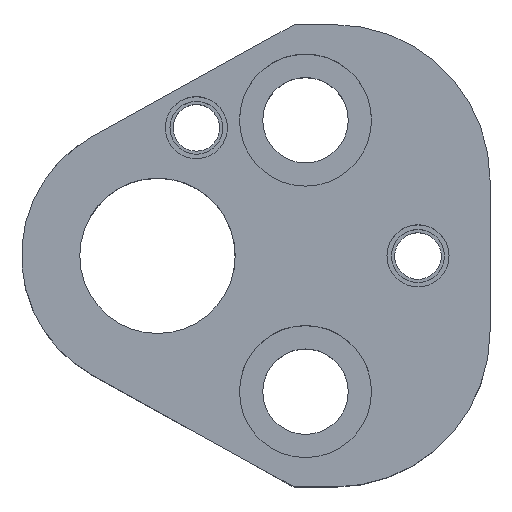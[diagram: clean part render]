
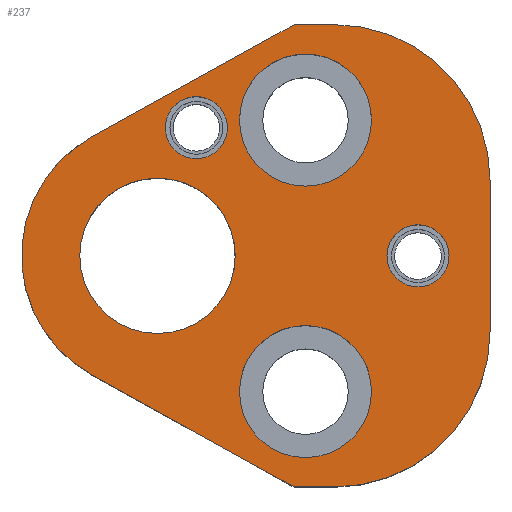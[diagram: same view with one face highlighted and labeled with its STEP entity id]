
A CAD part, top view. The second image highlights one B-rep face of the part: STEP entity #237.
In plain terms, the highlighted planar face has unit normal (0, 0, 1).
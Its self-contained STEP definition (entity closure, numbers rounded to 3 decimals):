
#113=FACE_BOUND('',#341,.T.);
#114=FACE_BOUND('',#342,.T.);
#115=FACE_BOUND('',#343,.T.);
#116=FACE_BOUND('',#344,.T.);
#117=FACE_BOUND('',#345,.T.);
#118=FACE_BOUND('',#346,.T.);
#149=CIRCLE('',#871,20.);
#151=CIRCLE('',#875,20.);
#154=CIRCLE('',#882,17.5);
#170=CIRCLE('',#907,8.5);
#172=CIRCLE('',#910,8.5);
#174=CIRCLE('',#914,8.5);
#176=CIRCLE('',#917,8.5);
#190=CIRCLE('',#943,4.);
#191=CIRCLE('',#944,4.);
#192=CIRCLE('',#945,4.);
#193=CIRCLE('',#946,4.);
#194=CIRCLE('',#947,10.);
#195=CIRCLE('',#948,10.);
#237=ADVANCED_FACE('',(#113,#114,#115,#116,#117,#118),#261,.T.);
#261=PLANE('',#949);
#341=EDGE_LOOP('',(#511,#512,#513,#514,#515,#516,#517,#518));
#342=EDGE_LOOP('',(#519,#520));
#343=EDGE_LOOP('',(#521,#522));
#344=EDGE_LOOP('',(#523,#524));
#345=EDGE_LOOP('',(#525,#526));
#346=EDGE_LOOP('',(#527,#528));
#511=ORIENTED_EDGE('',*,*,#675,.T.);
#512=ORIENTED_EDGE('',*,*,#654,.T.);
#513=ORIENTED_EDGE('',*,*,#658,.T.);
#514=ORIENTED_EDGE('',*,*,#661,.T.);
#515=ORIENTED_EDGE('',*,*,#664,.T.);
#516=ORIENTED_EDGE('',*,*,#667,.T.);
#517=ORIENTED_EDGE('',*,*,#670,.T.);
#518=ORIENTED_EDGE('',*,*,#679,.T.);
#519=ORIENTED_EDGE('',*,*,#740,.F.);
#520=ORIENTED_EDGE('',*,*,#741,.F.);
#521=ORIENTED_EDGE('',*,*,#742,.F.);
#522=ORIENTED_EDGE('',*,*,#743,.F.);
#523=ORIENTED_EDGE('',*,*,#718,.F.);
#524=ORIENTED_EDGE('',*,*,#714,.F.);
#525=ORIENTED_EDGE('',*,*,#712,.F.);
#526=ORIENTED_EDGE('',*,*,#708,.F.);
#527=ORIENTED_EDGE('',*,*,#744,.T.);
#528=ORIENTED_EDGE('',*,*,#745,.T.);
#581=VERTEX_POINT('',#1228);
#582=VERTEX_POINT('',#1230);
#585=VERTEX_POINT('',#1237);
#587=VERTEX_POINT('',#1243);
#589=VERTEX_POINT('',#1249);
#591=VERTEX_POINT('',#1255);
#593=VERTEX_POINT('',#1261);
#597=VERTEX_POINT('',#1272);
#619=VERTEX_POINT('',#1340);
#620=VERTEX_POINT('',#1341);
#623=VERTEX_POINT('',#1353);
#624=VERTEX_POINT('',#1354);
#639=VERTEX_POINT('',#1408);
#640=VERTEX_POINT('',#1409);
#641=VERTEX_POINT('',#1412);
#642=VERTEX_POINT('',#1413);
#643=VERTEX_POINT('',#1416);
#644=VERTEX_POINT('',#1417);
#654=EDGE_CURVE('',#582,#581,#764,.T.);
#658=EDGE_CURVE('',#581,#585,#149,.T.);
#661=EDGE_CURVE('',#585,#587,#769,.T.);
#664=EDGE_CURVE('',#587,#589,#151,.T.);
#667=EDGE_CURVE('',#589,#591,#773,.T.);
#670=EDGE_CURVE('',#591,#593,#776,.T.);
#675=EDGE_CURVE('',#597,#582,#781,.T.);
#679=EDGE_CURVE('',#593,#597,#154,.T.);
#708=EDGE_CURVE('',#619,#620,#170,.T.);
#712=EDGE_CURVE('',#620,#619,#172,.T.);
#714=EDGE_CURVE('',#623,#624,#174,.T.);
#718=EDGE_CURVE('',#624,#623,#176,.T.);
#740=EDGE_CURVE('',#639,#640,#190,.T.);
#741=EDGE_CURVE('',#640,#639,#191,.T.);
#742=EDGE_CURVE('',#641,#642,#192,.T.);
#743=EDGE_CURVE('',#642,#641,#193,.T.);
#744=EDGE_CURVE('',#643,#644,#194,.T.);
#745=EDGE_CURVE('',#644,#643,#195,.T.);
#764=LINE('',#1229,#817);
#769=LINE('',#1244,#822);
#773=LINE('',#1256,#826);
#776=LINE('',#1262,#829);
#781=LINE('',#1271,#834);
#817=VECTOR('',#973,1.);
#822=VECTOR('',#986,1.);
#826=VECTOR('',#998,1.);
#829=VECTOR('',#1003,1.);
#834=VECTOR('',#1010,1.);
#871=AXIS2_PLACEMENT_3D('',#1238,#979,#980);
#875=AXIS2_PLACEMENT_3D('',#1250,#991,#992);
#882=AXIS2_PLACEMENT_3D('',#1279,#1017,#1018);
#907=AXIS2_PLACEMENT_3D('',#1339,#1079,#1080);
#910=AXIS2_PLACEMENT_3D('',#1348,#1087,#1088);
#914=AXIS2_PLACEMENT_3D('',#1352,#1095,#1096);
#917=AXIS2_PLACEMENT_3D('',#1361,#1103,#1104);
#943=AXIS2_PLACEMENT_3D('',#1407,#1163,#1164);
#944=AXIS2_PLACEMENT_3D('',#1410,#1165,#1166);
#945=AXIS2_PLACEMENT_3D('',#1411,#1167,#1168);
#946=AXIS2_PLACEMENT_3D('',#1414,#1169,#1170);
#947=AXIS2_PLACEMENT_3D('',#1415,#1171,#1172);
#948=AXIS2_PLACEMENT_3D('',#1418,#1173,#1174);
#949=AXIS2_PLACEMENT_3D('',#1419,#1175,#1176);
#973=DIRECTION('',(1.,0.,0.));
#979=DIRECTION('',(0.,0.,1.));
#980=DIRECTION('',(-0.707,0.707,0.));
#986=DIRECTION('',(0.,1.,0.));
#991=DIRECTION('',(0.,0.,1.));
#992=DIRECTION('',(-0.707,-0.707,0.));
#998=DIRECTION('',(-1.,0.,0.));
#1003=DIRECTION('',(-0.875,-0.485,0.));
#1010=DIRECTION('',(0.875,-0.485,0.));
#1017=DIRECTION('',(0.,0.,1.));
#1018=DIRECTION('',(1.,0.,0.));
#1079=DIRECTION('',(0.,0.,1.));
#1080=DIRECTION('',(-1.,0.,0.));
#1087=DIRECTION('',(0.,0.,1.));
#1088=DIRECTION('',(1.,0.,0.));
#1095=DIRECTION('',(0.,0.,1.));
#1096=DIRECTION('',(-1.,0.,0.));
#1103=DIRECTION('',(0.,0.,1.));
#1104=DIRECTION('',(1.,0.,0.));
#1163=DIRECTION('',(0.,0.,1.));
#1164=DIRECTION('',(1.,0.,0.));
#1165=DIRECTION('',(0.,0.,1.));
#1166=DIRECTION('',(-1.,0.,0.));
#1167=DIRECTION('',(0.,0.,1.));
#1168=DIRECTION('',(1.,0.,0.));
#1169=DIRECTION('',(0.,0.,1.));
#1170=DIRECTION('',(-1.,0.,0.));
#1171=DIRECTION('',(0.,0.,-1.));
#1172=DIRECTION('',(-1.,0.,0.));
#1173=DIRECTION('',(0.,0.,-1.));
#1174=DIRECTION('',(1.,0.,0.));
#1175=DIRECTION('',(0.,0.,1.));
#1176=DIRECTION('',(-0.875,0.485,0.));
#1228=CARTESIAN_POINT('',(22.8,-29.75,25.));
#1229=CARTESIAN_POINT('',(17.574,-29.75,25.));
#1230=CARTESIAN_POINT('',(17.574,-29.75,25.));
#1237=CARTESIAN_POINT('',(42.8,-9.75,25.));
#1238=CARTESIAN_POINT('',(22.8,-9.75,25.));
#1243=CARTESIAN_POINT('',(42.8,9.75,25.));
#1244=CARTESIAN_POINT('',(42.8,9.75,25.));
#1249=CARTESIAN_POINT('',(22.8,29.75,25.));
#1250=CARTESIAN_POINT('',(22.8,9.75,25.));
#1255=CARTESIAN_POINT('',(17.574,29.75,25.));
#1256=CARTESIAN_POINT('',(17.574,29.75,25.));
#1261=CARTESIAN_POINT('',(-8.484,15.306,25.));
#1262=CARTESIAN_POINT('',(17.574,29.75,25.));
#1271=CARTESIAN_POINT('',(17.574,-29.75,25.));
#1272=CARTESIAN_POINT('',(-8.484,-15.306,25.));
#1279=CARTESIAN_POINT('',(0.,0.,25.));
#1339=CARTESIAN_POINT('',(19.05,-17.47,25.));
#1340=CARTESIAN_POINT('',(19.05,-25.97,25.));
#1341=CARTESIAN_POINT('',(19.05,-8.97,25.));
#1348=CARTESIAN_POINT('',(19.05,-17.47,25.));
#1352=CARTESIAN_POINT('',(19.05,17.47,25.));
#1353=CARTESIAN_POINT('',(19.05,8.97,25.));
#1354=CARTESIAN_POINT('',(19.05,25.97,25.));
#1361=CARTESIAN_POINT('',(19.05,17.47,25.));
#1407=CARTESIAN_POINT('',(33.53,0.,25.));
#1408=CARTESIAN_POINT('',(33.53,4.,25.));
#1409=CARTESIAN_POINT('',(33.53,-4.,25.));
#1410=CARTESIAN_POINT('',(33.53,0.,25.));
#1411=CARTESIAN_POINT('',(5.,16.5,25.));
#1412=CARTESIAN_POINT('',(5.,20.5,25.));
#1413=CARTESIAN_POINT('',(5.,12.5,25.));
#1414=CARTESIAN_POINT('',(5.,16.5,25.));
#1415=CARTESIAN_POINT('',(0.,0.,25.));
#1416=CARTESIAN_POINT('',(0.,10.,25.));
#1417=CARTESIAN_POINT('',(0.,-10.,25.));
#1418=CARTESIAN_POINT('',(0.,0.,25.));
#1419=CARTESIAN_POINT('',(-8.484,-15.306,25.));
